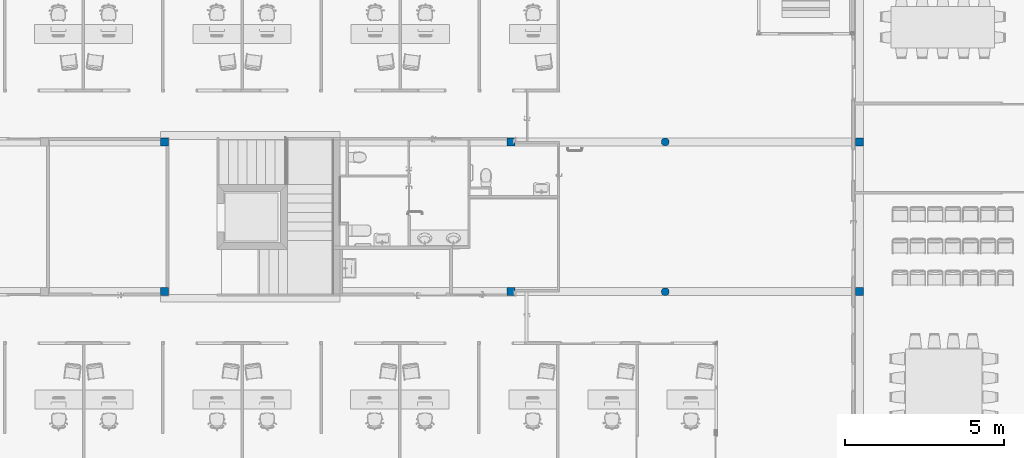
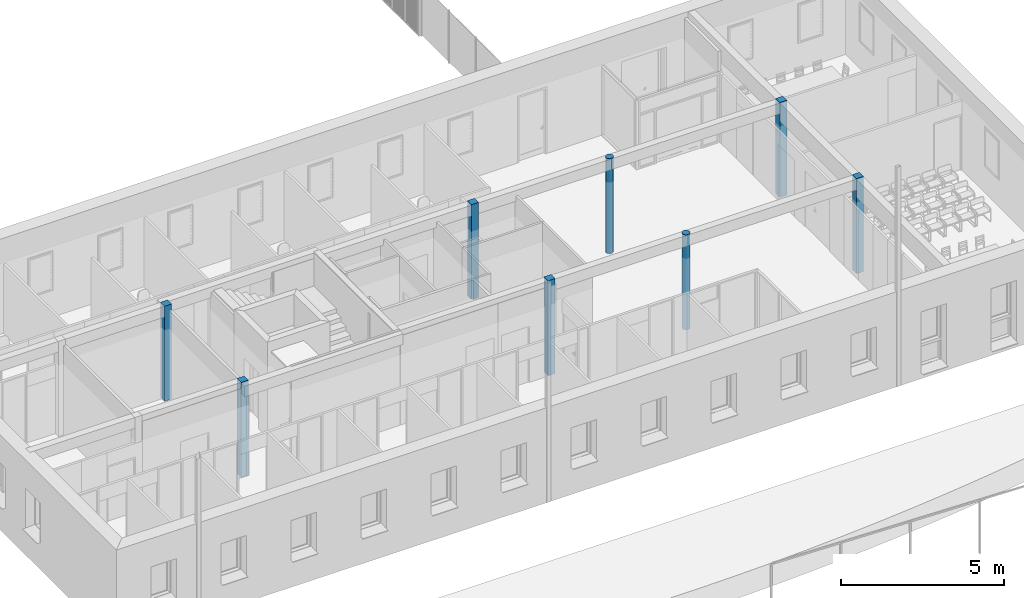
# One storey, part 3 of 91: 8 columns.
"""IFC2X3 building model written with IfcOpenShell, lengths in metres."""

from ifc_helpers import new_model, entity, si_unit, converted_unit, derived_unit, money_unit, direction, frame, origin_with_axes, origin_2d_with_axis, place, context, subcontext, project, spatial, rectangle, circle, extrude, material, type_object, element, save


model = new_model("IFC2X3")

# Units and contexts
model_context = context("Model", 3, precision=1e-05, world=origin_with_axes(), true_north=direction((0.0, 1.0)))
body_context = subcontext(model_context, "Body", "Model", "MODEL_VIEW")
ifc_project = project(units=[si_unit("LENGTHUNIT", "METRE"), si_unit("AREAUNIT", "SQUARE_METRE"), si_unit("VOLUMEUNIT", "CUBIC_METRE"), converted_unit("PLANEANGLEUNIT", "DEGREE", entity("IfcPlaneAngleMeasure", 0.0174532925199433), si_unit("PLANEANGLEUNIT", "RADIAN"), dimensions=[0, 0, 0, 0, 0, 0, 0]), money_unit("EUR"), converted_unit("TIMEUNIT", "Year", entity("IfcTimeMeasure", 31557600.0), si_unit("TIMEUNIT", "SECOND"), dimensions=[0, 0, 1, 0, 0, 0, 0]), si_unit("MASSUNIT", "GRAM", prefix="KILO"), si_unit("THERMODYNAMICTEMPERATUREUNIT", "DEGREE_CELSIUS"), si_unit("LUMINOUSINTENSITYUNIT", "LUMEN"), si_unit("ENERGYUNIT", "JOULE", prefix="MEGA"), derived_unit("THERMALCONDUCTANCEUNIT", [(si_unit("POWERUNIT", "WATT"), 1), (si_unit("LENGTHUNIT", "METRE"), -1), (si_unit("THERMODYNAMICTEMPERATUREUNIT", "KELVIN"), -1)]), derived_unit("SPECIFICHEATCAPACITYUNIT", [(si_unit("ENERGYUNIT", "JOULE"), 1), (si_unit("MASSUNIT", "GRAM", prefix="KILO"), -1), (si_unit("THERMODYNAMICTEMPERATUREUNIT", "KELVIN"), -1)]), derived_unit("MASSDENSITYUNIT", [(si_unit("MASSUNIT", "GRAM", prefix="KILO"), 1), (si_unit("VOLUMEUNIT", "CUBIC_METRE"), -1)])], contexts=[model_context])

# Site, building, storey
site_placement = place(None, origin_with_axes())
site = spatial("IfcSite", under=ifc_project, at=site_placement, Name="Site", CompositionType="ELEMENT")
building_placement = place(site_placement, origin_with_axes())
building = spatial("IfcBuilding", under=site, at=building_placement, Name="Bâtiment", CompositionType="ELEMENT")
storey_placement = place(building_placement, origin_with_axes())
storey = spatial("IfcBuildingStorey", under=building, at=storey_placement, Name="RDC", CompositionType="ELEMENT", Elevation=0.0)

# Columns
ifc_material = material(Name="Béton")
column_type_1 = type_object("IfcColumnType", Name="Béton 250 x 250", PredefinedType="NOTDEFINED")
column_1_placement = place(storey_placement, frame((54.34499999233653, -21.45756464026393, 0.0), z_axis=(0.0, 0.0, 1.0), x_axis=(0.0, 1.0, 0.0)))
element("IfcColumn", 1, at=column_1_placement, inside=storey, type_object=column_type_1, material=ifc_material, Name="PotB-005", context=body_context, shape_type="SweptSolid", body=[
    extrude(rectangle(XDim=0.25, YDim=0.25, at=origin_2d_with_axis()), origin_with_axes(), (0.0, 0.0, 1.0), 3.56),
])
column_2_placement = place(storey_placement, frame((43.41999999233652, -16.7575645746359, 0.0), z_axis=(0.0, 0.0, 1.0), x_axis=(0.0, -1.0, 0.0)))
element("IfcColumn", 2, at=column_2_placement, inside=storey, type_object=column_type_1, material=ifc_material, Name="PotB-005", context=body_context, shape_type="SweptSolid", body=[
    extrude(rectangle(XDim=0.25, YDim=0.25, at=origin_2d_with_axis()), frame((0.0, 0.0, 0.0), z_axis=(0.0, 0.0, -1.0), x_axis=(-1.0, 0.0, 0.0)), (0.0, 0.0, -1.0), 3.56),
])
column_3_placement = place(storey_placement, frame((54.34499999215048, -16.7575645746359, 0.0), z_axis=(0.0, 0.0, 1.0), x_axis=(0.0, 1.0, 0.0)))
element("IfcColumn", 3, at=column_3_placement, inside=storey, type_object=column_type_1, material=ifc_material, Name="PotB-005", context=body_context, shape_type="SweptSolid", body=[
    extrude(rectangle(XDim=0.25, YDim=0.25, at=origin_2d_with_axis()), origin_with_axes(), (0.0, 0.0, 1.0), 3.56),
])
for number, where, z_axis, x_axis in (
    (4, (32.55300800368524, -16.7575645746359, 0.0), (0.0, 0.0, 1.0), (0.0, -1.0, 0.0)),
    (5, (32.55300800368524, -21.45756464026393, 0.0), (0.0, 0.0, 1.0), (0.0, -1.0, 0.0)),
    (6, (43.41999999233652, -21.45756464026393, 0.0), (0.0, 0.0, 1.0), (0.0, -1.0, 0.0)),
):
    element("IfcColumn", number, at=place(storey_placement, frame(where, z_axis=z_axis, x_axis=x_axis)), inside=storey, type_object=column_type_1, material=ifc_material, Name="PotB-005", context=body_context, shape_type="SweptSolid", body=[
        extrude(rectangle(XDim=0.25, YDim=0.25, at=origin_2d_with_axis()), frame((0.0, 0.0, 0.0), z_axis=(0.0, 0.0, -1.0), x_axis=(-1.0, 0.0, 0.0)), (0.0, 0.0, -1.0), 3.56),
    ])
column_type_2 = type_object("IfcColumnType", Name="Béton D250", PredefinedType="NOTDEFINED")
column_4_placement = place(storey_placement, frame((48.25427265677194, -21.45756464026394, 0.0), z_axis=(0.0, 0.0, 1.0), x_axis=(0.0, 1.0, 0.0)))
element("IfcColumn", 7, at=column_4_placement, inside=storey, type_object=column_type_2, material=ifc_material, Name="PotB-005", context=body_context, shape_type="SweptSolid", body=[
    extrude(circle(Radius=0.125, at=origin_2d_with_axis()), origin_with_axes(), (0.0, 0.0, 1.0), 3.56),
])
column_5_placement = place(storey_placement, frame((48.25427265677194, -16.7575645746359, 0.0), z_axis=(0.0, 0.0, 1.0), x_axis=(0.0, 1.0, 0.0)))
element("IfcColumn", 8, at=column_5_placement, inside=storey, type_object=column_type_2, material=ifc_material, Name="PotB-005", context=body_context, shape_type="SweptSolid", body=[
    extrude(circle(Radius=0.125, at=origin_2d_with_axis()), frame((0.0, 0.0, 0.0), z_axis=(0.0, 0.0, -1.0), x_axis=(-1.0, 0.0, 0.0)), (0.0, 0.0, -1.0), 3.56),
])

save(model, "model.ifc")
